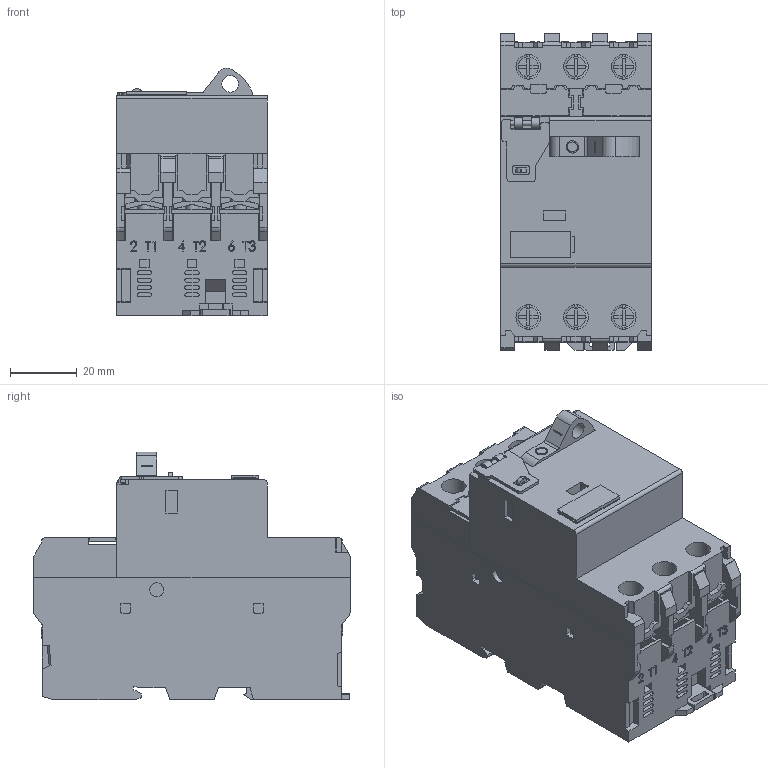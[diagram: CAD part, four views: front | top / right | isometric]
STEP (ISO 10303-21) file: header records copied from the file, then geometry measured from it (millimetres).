
FILE_DESCRIPTION (( 'STEP AP214' ), '1' );
FILE_NAME ('BM3RSB.STEP', '2015-06-04T01:02:25', ( '川崎工場' ), ( '富士電機株式会社' ), 'SwSTEP 2.0', 'SolidWorks 2014', '' );
FILE_SCHEMA (( 'AUTOMOTIVE_DESIGN' ));
Length unit declared in the file: millimetre
Products named in the file (15): Plate_M4_9-12; BM3RSB_Main Terminal Plate_Loadside; BM3-Adjustable dial; BM3RSB_Case_Front; BM3RSB_Main Terminal Plate_Lineside; BM3RSB_Case_Front_Cover-2; BM3R-032_Case_back; BM3RSB_Front_Asm; BM3RSB_Switch; BM3RSB_Auxiliary_contact_Cover_Right; BM3RSB_Rail_mounting_part; BM3RSB; BM3RSB_Auxiliary_contact_Cover_Left; Screw_M4_Flat_L10; BM3RSB_Case_Front_Cover
Assembly tree (28 placements, depth 3):
  BM3RSB
    BM3R-032_Case_back
    BM3RSB_Front_Asm
      BM3RSB_Case_Front
      BM3RSB_Case_Front_Cover
      BM3RSB_Auxiliary_contact_Cover_Left
      BM3RSB_Auxiliary_contact_Cover_Right
    BM3RSB_Main Terminal Plate_Lineside  x3
    BM3RSB_Main Terminal Plate_Loadside  x3
    Plate_M4_9-12  x6
    Screw_M4_Flat_L10  x6
    BM3RSB_Rail_mounting_part
    BM3RSB_Switch
    BM3RSB_Case_Front_Cover-2
    BM3-Adjustable dial
Bounding box: 45 x 94.8 x 74.26 mm (x, y, z)
Volume: 211921.3 mm3; surface area: 54990.1 mm2
Topology: 27 solids, 27 shells, 1462 faces, 3971 edges, 2632 vertices
Faces by surface type: plane 1127, cylinder 250, bspline 85
Full cylindrical faces by diameter (mm): 1.6 x1, 4 x24, 4.2 x2, 5 x1, 6 x6, 7 x1, 7.4 x6, 7.5 x2
Entity records: 44061 total; most frequent: CARTESIAN_POINT 12267, ORIENTED_EDGE 6714, DIRECTION 5892, EDGE_CURVE 3357, LINE 2824, VECTOR 2824, VERTEX_POINT 2241, AXIS2_PLACEMENT_3D 1534
